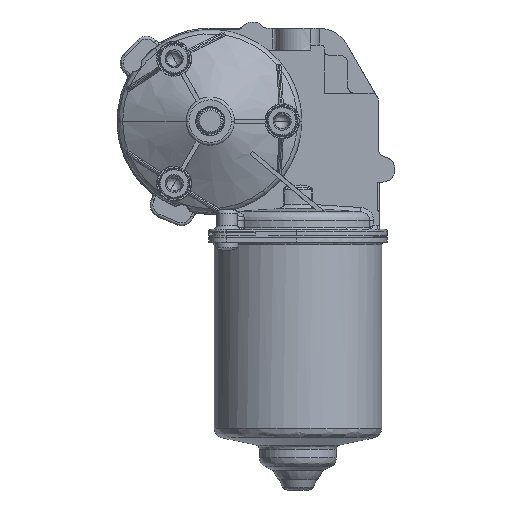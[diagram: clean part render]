
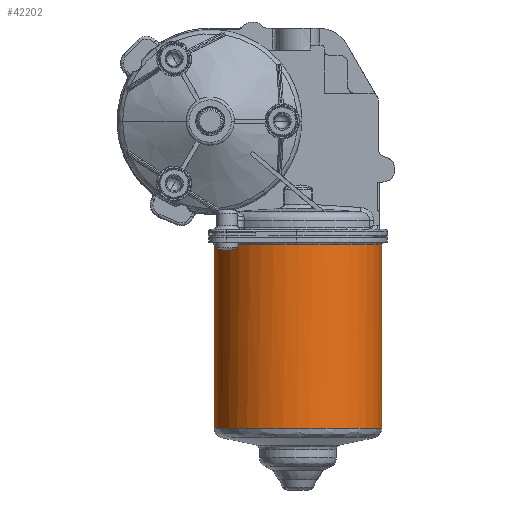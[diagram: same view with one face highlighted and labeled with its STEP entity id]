
A CAD part, left-side view. The second image highlights one B-rep face of the part: STEP entity #42202.
In plain terms, the highlighted free-form (B-spline) face has degree [1, 8] with [2, 9] control points.
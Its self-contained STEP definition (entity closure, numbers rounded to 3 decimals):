
#4489 = EDGE_LOOP ( 'NONE', ( #27207, #27210, #27212, #27215 ) ) ;
#9862 = VERTEX_POINT ( 'NONE', #16914 ) ;
#10077 = VERTEX_POINT ( 'NONE', #17449 ) ;
#10116 = VERTEX_POINT ( 'NONE', #17522 ) ;
#10128 = VERTEX_POINT ( 'NONE', #17545 ) ;
#11206 = CARTESIAN_POINT ( 'NONE',  ( 24.999, -1.401, -43.7 ) ) ;
#11207 = CARTESIAN_POINT ( 'NONE',  ( 24.999, -1.401, -108.318 ) ) ;
#14701 = CARTESIAN_POINT ( 'NONE',  ( 24.999, -60.599, -108.318 ) ) ;
#14702 = CARTESIAN_POINT ( 'NONE',  ( 24.999, -60.599, -43.7 ) ) ;
#16914 = CARTESIAN_POINT ( 'NONE',  ( 24.999, -1.401, -43.7 ) ) ;
#17449 = CARTESIAN_POINT ( 'NONE',  ( 24.999, -60.599, -108.318 ) ) ;
#17522 = CARTESIAN_POINT ( 'NONE',  ( 24.999, -1.401, -108.318 ) ) ;
#17545 = CARTESIAN_POINT ( 'NONE',  ( 24.999, -60.599, -43.7 ) ) ;
#19233 = EDGE_CURVE ( 'NONE', #9862, #10128, #25418, .T. ) ;
#19978 = EDGE_CURVE ( 'NONE', #10077, #10116, #25740, .T. ) ;
#25418 = B_SPLINE_CURVE_WITH_KNOTS ( 'NONE', 8,
 ( #31800, #31828, #31830, #31831, #31832, #31833, #31834, #31835, #31836 ),
 .UNSPECIFIED., .F., .F.,
 ( 9, 9 ),
 ( 0., 1. ),
 .UNSPECIFIED. ) ;
#25740 = B_SPLINE_CURVE_WITH_KNOTS ( 'NONE', 8,
 ( #50355, #50368, #50369, #50370, #50371, #50372, #50373, #50374, #50375 ),
 .UNSPECIFIED., .F., .F.,
 ( 9, 9 ),
 ( 0., 1. ),
 .UNSPECIFIED. ) ;
#25995 = B_SPLINE_CURVE_WITH_KNOTS ( 'NONE', 1,
 ( #14701, #14702 ),
 .UNSPECIFIED., .F., .F.,
 ( 2, 2 ),
 ( 0., 1. ),
 .UNSPECIFIED. ) ;
#27207 = ORIENTED_EDGE ( 'NONE', *, *, #19233, .F. ) ;
#27210 = ORIENTED_EDGE ( 'NONE', *, *, #45510, .T. ) ;
#27212 = ORIENTED_EDGE ( 'NONE', *, *, #19978, .F. ) ;
#27215 = ORIENTED_EDGE ( 'NONE', *, *, #45301, .T. ) ;
#27673 = B_SPLINE_CURVE_WITH_KNOTS ( 'NONE', 1,
 ( #11206, #11207 ),
 .UNSPECIFIED., .F., .F.,
 ( 2, 2 ),
 ( 0., 1. ),
 .UNSPECIFIED. ) ;
#31800 = CARTESIAN_POINT ( 'NONE',  ( 24.999, -1.401, -43.7 ) ) ;
#31828 = CARTESIAN_POINT ( 'NONE',  ( 13.376, -1.4, -43.7 ) ) ;
#31830 = CARTESIAN_POINT ( 'NONE',  ( 1.752, -6.619, -43.7 ) ) ;
#31831 = CARTESIAN_POINT ( 'NONE',  ( -7.139, -17.044, -43.7 ) ) ;
#31832 = CARTESIAN_POINT ( 'NONE',  ( -10.574, -31., -43.7 ) ) ;
#31833 = CARTESIAN_POINT ( 'NONE',  ( -7.139, -44.956, -43.7 ) ) ;
#31834 = CARTESIAN_POINT ( 'NONE',  ( 1.752, -55.381, -43.7 ) ) ;
#31835 = CARTESIAN_POINT ( 'NONE',  ( 13.376, -60.6, -43.7 ) ) ;
#31836 = CARTESIAN_POINT ( 'NONE',  ( 24.999, -60.599, -43.7 ) ) ;
#37854 = FACE_OUTER_BOUND ( 'NONE', #4489, .T. ) ;
#42202 = ADVANCED_FACE ( 'NONE', ( #37854 ), #43665, .F. ) ;
#43665 = B_SPLINE_SURFACE_WITH_KNOTS ( 'NONE', 1, 8, ( 
 ( #48805, #48804, #48727, #48806, #48807, #48808, #48810, #48812, #48813 ),
 ( #48815, #48816, #48817, #48819, #48820, #48822, #48824, #48825, #48826 ) ),
 .UNSPECIFIED., .F., .F., .F.,
 ( 2, 2 ),
 ( 9, 9 ),
 ( 0., 1. ),
 ( 0., 1. ),
 .UNSPECIFIED. ) ;
#45301 = EDGE_CURVE ( 'NONE', #10077, #10128, #25995, .T. ) ;
#45510 = EDGE_CURVE ( 'NONE', #9862, #10116, #27673, .T. ) ;
#48727 = CARTESIAN_POINT ( 'NONE',  ( 1.752, -6.619, -108.318 ) ) ;
#48804 = CARTESIAN_POINT ( 'NONE',  ( 13.376, -1.4, -108.318 ) ) ;
#48805 = CARTESIAN_POINT ( 'NONE',  ( 24.999, -1.401, -108.318 ) ) ;
#48806 = CARTESIAN_POINT ( 'NONE',  ( -7.139, -17.044, -108.318 ) ) ;
#48807 = CARTESIAN_POINT ( 'NONE',  ( -10.574, -31., -108.318 ) ) ;
#48808 = CARTESIAN_POINT ( 'NONE',  ( -7.139, -44.956, -108.318 ) ) ;
#48810 = CARTESIAN_POINT ( 'NONE',  ( 1.752, -55.381, -108.318 ) ) ;
#48812 = CARTESIAN_POINT ( 'NONE',  ( 13.376, -60.6, -108.318 ) ) ;
#48813 = CARTESIAN_POINT ( 'NONE',  ( 24.999, -60.599, -108.318 ) ) ;
#48815 = CARTESIAN_POINT ( 'NONE',  ( 24.999, -1.401, -43.7 ) ) ;
#48816 = CARTESIAN_POINT ( 'NONE',  ( 13.376, -1.4, -43.7 ) ) ;
#48817 = CARTESIAN_POINT ( 'NONE',  ( 1.752, -6.619, -43.7 ) ) ;
#48819 = CARTESIAN_POINT ( 'NONE',  ( -7.139, -17.044, -43.7 ) ) ;
#48820 = CARTESIAN_POINT ( 'NONE',  ( -10.574, -31., -43.7 ) ) ;
#48822 = CARTESIAN_POINT ( 'NONE',  ( -7.139, -44.956, -43.7 ) ) ;
#48824 = CARTESIAN_POINT ( 'NONE',  ( 1.752, -55.381, -43.7 ) ) ;
#48825 = CARTESIAN_POINT ( 'NONE',  ( 13.376, -60.6, -43.7 ) ) ;
#48826 = CARTESIAN_POINT ( 'NONE',  ( 24.999, -60.599, -43.7 ) ) ;
#50355 = CARTESIAN_POINT ( 'NONE',  ( 24.999, -60.599, -108.318 ) ) ;
#50368 = CARTESIAN_POINT ( 'NONE',  ( 13.376, -60.6, -108.318 ) ) ;
#50369 = CARTESIAN_POINT ( 'NONE',  ( 1.752, -55.381, -108.318 ) ) ;
#50370 = CARTESIAN_POINT ( 'NONE',  ( -7.139, -44.956, -108.318 ) ) ;
#50371 = CARTESIAN_POINT ( 'NONE',  ( -10.574, -31., -108.318 ) ) ;
#50372 = CARTESIAN_POINT ( 'NONE',  ( -7.139, -17.044, -108.318 ) ) ;
#50373 = CARTESIAN_POINT ( 'NONE',  ( 1.752, -6.619, -108.318 ) ) ;
#50374 = CARTESIAN_POINT ( 'NONE',  ( 13.376, -1.4, -108.318 ) ) ;
#50375 = CARTESIAN_POINT ( 'NONE',  ( 24.999, -1.401, -108.318 ) ) ;
